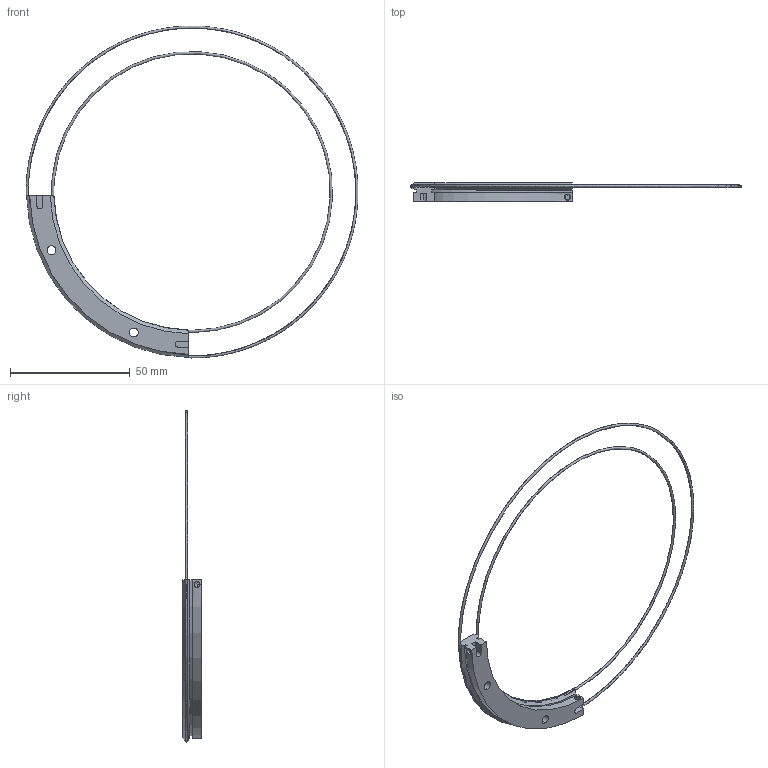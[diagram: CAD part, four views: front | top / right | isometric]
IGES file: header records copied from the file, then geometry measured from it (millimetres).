
Start section: 3D InterOp IGES (v. 2019 1.0.2), Spatial Corp. Copyright (c) 1999-2017.
Global section: file name: TR12 127 R90.igs; native system: Spatial Corp.; preprocessor: 3D InterOp GENERIC/IGES 3.0; author: Noname; organization: Noname; date: 20220628.092356; units: millimetre
Bounding box: 138.63 x 7.7 x 138.63 mm (x, y, z)
Surface area: 7954.4 mm2 (no closed solid volume)
Topology: 0 solids, 0 shells, 78 faces, 402 edges, 399 vertices
Faces by surface type: extrusion 48, revolution 30
